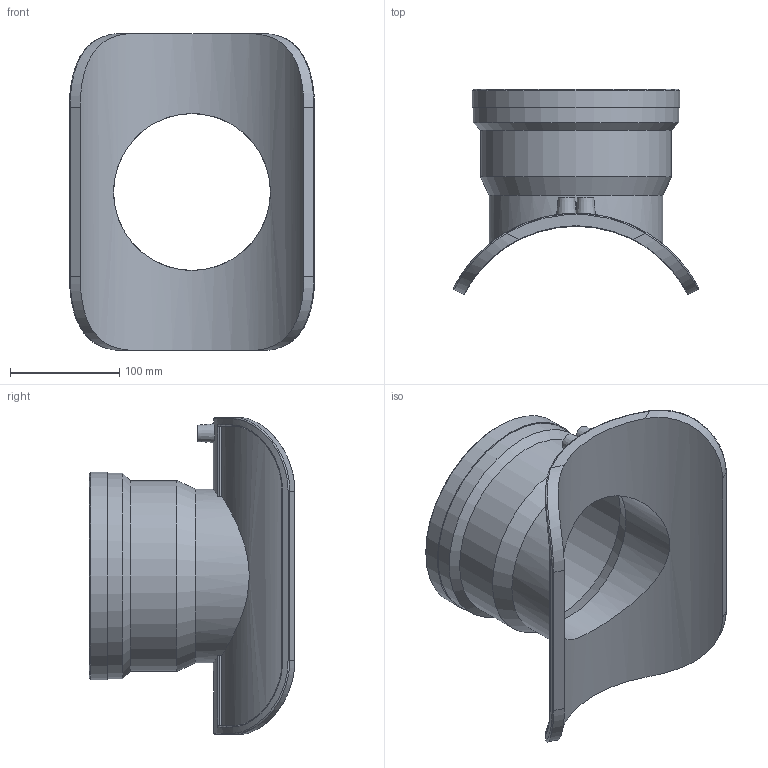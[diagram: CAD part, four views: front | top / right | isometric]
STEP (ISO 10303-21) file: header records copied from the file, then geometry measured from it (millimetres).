
FILE_DESCRIPTION(/* description */ ('PLASSON WASTEWATER SADDLE TEE 90 8''''DIPS x 6''''PSM for PVC'),/* implementation_level */ '2;1');
FILE_NAME(/* name */ 'C:\Dropbox\KIMPROJECTS-Inventor 2019\99-16-3568-Processing Inch\ASTM ElectroFusion 2021\5758BP\5758BPV4100060.ipt.stp',/* time_stamp */ '2021-08-30T09:48:19+03:00',/* author */ ('Кирилл'),/* organization */ (''),/* preprocessor_version */ 'ST-DEVELOPER v17.2',/* originating_system */ 'Autodesk Inventor 2019',/* authorisation */ '');
FILE_SCHEMA (('AUTOMOTIVE_DESIGN { 1 0 10303 214 3 1 1 }'));
Length unit declared in the file: inch
Products named in the file (1): 5758BPV4100060
Bounding box: 223.99 x 187.86 x 289.56 mm (x, y, z)
Volume: 1157052.3 mm3; surface area: 274532.4 mm2
Topology: 1 solids, 1 shells, 83 faces, 208 edges, 135 vertices
Faces by surface type: cylinder 34, plane 23, cone 12, bspline 8, torus 6
Full cylindrical faces by diameter (mm): 4 x2, 10 x2, 143.19 x1, 158.636 x1, 159.1 x3, 174.546 x1, 188.092 x1, 189.992 x1
Entity records: 3529 total; most frequent: CARTESIAN_POINT 1519, ORIENTED_EDGE 416, DIRECTION 406, EDGE_CURVE 208, AXIS2_PLACEMENT_3D 168, VERTEX_POINT 135, EDGE_LOOP 93, CIRCLE 88
